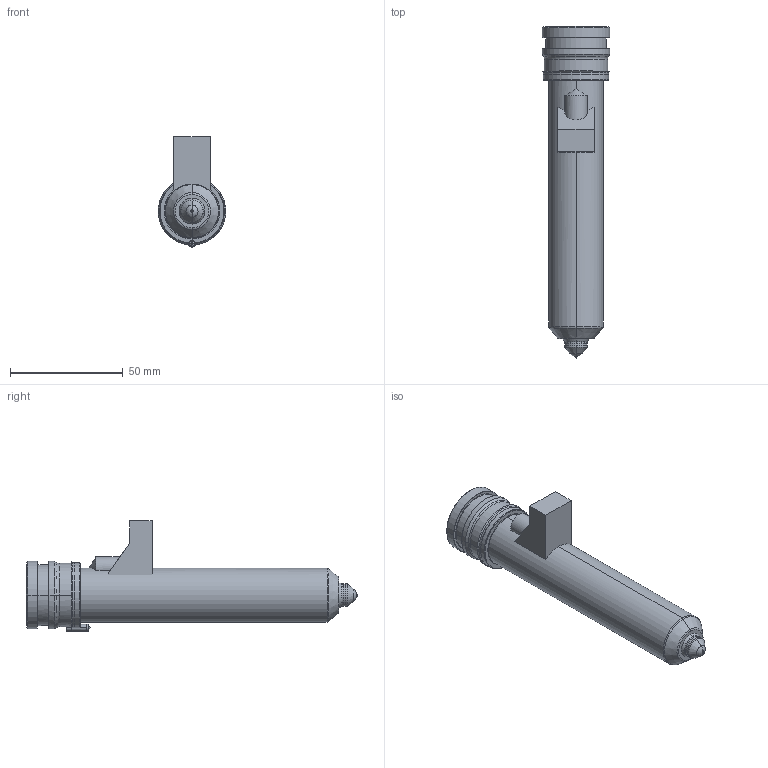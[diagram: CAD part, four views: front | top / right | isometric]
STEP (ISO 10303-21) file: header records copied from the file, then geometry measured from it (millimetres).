
FILE_DESCRIPTION((''),'2;1');
FILE_NAME('MPN-10-29-VX10-126-M','2026-02-05T12:57:07',('UPTIO'),('Thermoplay S.p.A.'),'CREO PARAMETRIC BY PTC INC, 2023494','CREO PARAMETRIC BY PTC INC, 2023494','');
FILE_SCHEMA(('CONFIG_CONTROL_DESIGN','SHAPE_APPEARANCE_LAYERS_GROUPS'));
Length unit declared in the file: millimetre
Products named in the file (1): MPN-10-29-VX10-126-M
Bounding box: 30 x 147.5 x 49 mm (x, y, z)
Volume: 46012.6 mm3; surface area: 47421.9 mm2
Topology: 3 solids, 5 shells, 547 faces, 1387 edges, 846 vertices
Faces by surface type: cylinder 179, plane 147, torus 71, bspline 70, cone 68, sphere 8, extrusion 4
Entity records: 26308 total; most frequent: CARTESIAN_POINT 10343, ORIENTED_EDGE 2760, DIRECTION 2638, EDGE_CURVE 1380, AXIS2_PLACEMENT_3D 1050, VERTEX_POINT 846, EDGE_LOOP 576, CIRCLE 576
